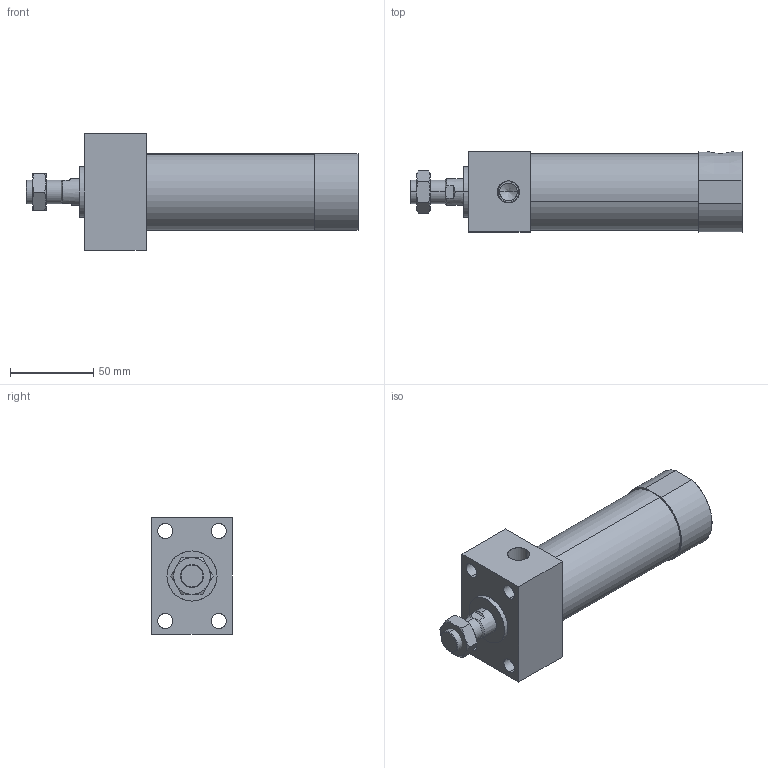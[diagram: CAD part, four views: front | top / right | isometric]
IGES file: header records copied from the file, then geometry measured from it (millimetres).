
Start section: SolidWorks IGES file using analytic representation for surfaces
Global section: file name: C:\Users\Toshiba\Desktop\JGEF2-40-50.IGS; native system: SolidWorks 2014; preprocessor: SolidWorks 2014; author: Toshiba; date: 160420.150547; units: millimetre
Bounding box: 199 x 48 x 70 mm (x, y, z)
Surface area: 49722.6 mm2 (no closed solid volume)
Topology: 0 solids, 0 shells, 83 faces, 1584 edges, 1578 vertices
Faces by surface type: revolution 42, bspline 41
